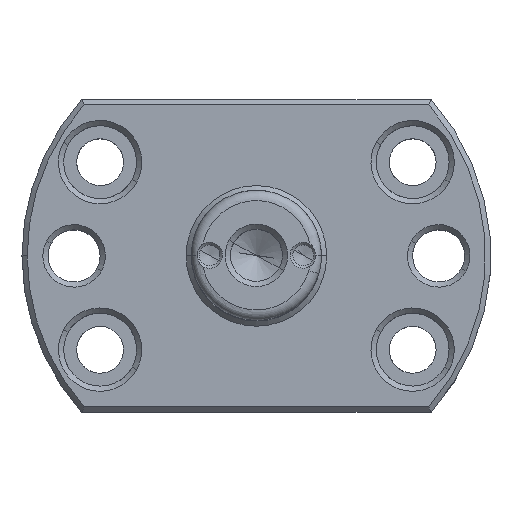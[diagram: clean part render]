
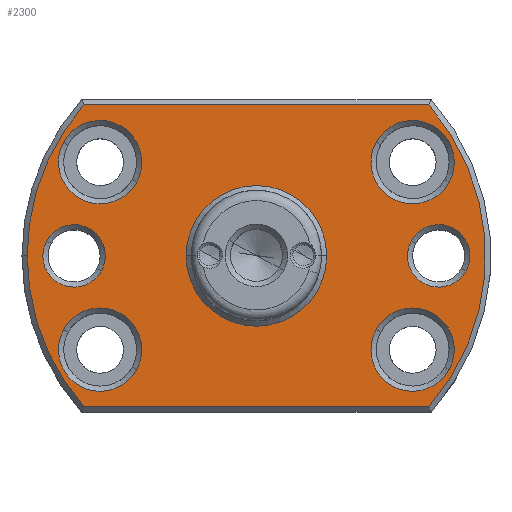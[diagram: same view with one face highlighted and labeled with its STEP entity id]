
A CAD part, top view. The second image highlights one B-rep face of the part: STEP entity #2300.
In plain terms, the highlighted planar face has unit normal (0, 0, 1).
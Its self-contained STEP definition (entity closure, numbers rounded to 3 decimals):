
#1546=CARTESIAN_POINT('Line Origine',(-0.528,29.,105.)) ;
#1550=CARTESIAN_POINT('Vertex',(33.091,29.,105.)) ;
#1552=CARTESIAN_POINT('Vertex',(-33.091,29.,105.)) ;
#1595=CARTESIAN_POINT('Vertex',(-33.091,-29.,105.)) ;
#1598=CARTESIAN_POINT('Axis2P3D Location',(0.,0.,105.)) ;
#1602=CARTESIAN_POINT('Vertex',(-44.,0.,105.)) ;
#1634=CARTESIAN_POINT('Axis2P3D Location',(0.,0.,105.)) ;
#1651=CARTESIAN_POINT('Line Origine',(-0.528,-29.,105.)) ;
#1655=CARTESIAN_POINT('Vertex',(33.091,-29.,105.)) ;
#1683=CARTESIAN_POINT('Axis2P3D Location',(0.,0.,105.)) ;
#1747=CARTESIAN_POINT('Vertex',(13.5,0.,105.)) ;
#1750=CARTESIAN_POINT('Axis2P3D Location',(0.,0.,105.)) ;
#1754=CARTESIAN_POINT('Vertex',(-13.5,0.,105.)) ;
#1774=CARTESIAN_POINT('Axis2P3D Location',(0.,0.,105.)) ;
#1843=CARTESIAN_POINT('Vertex',(-37.021,21.835,105.)) ;
#1846=CARTESIAN_POINT('Axis2P3D Location',(-30.,18.,105.)) ;
#1850=CARTESIAN_POINT('Vertex',(-22.979,14.165,105.)) ;
#1870=CARTESIAN_POINT('Axis2P3D Location',(-30.,18.,105.)) ;
#1939=CARTESIAN_POINT('Vertex',(37.021,14.165,105.)) ;
#1942=CARTESIAN_POINT('Axis2P3D Location',(30.,18.,105.)) ;
#1946=CARTESIAN_POINT('Vertex',(22.979,21.835,105.)) ;
#1966=CARTESIAN_POINT('Axis2P3D Location',(30.,18.,105.)) ;
#2035=CARTESIAN_POINT('Vertex',(37.021,-21.835,105.)) ;
#2038=CARTESIAN_POINT('Axis2P3D Location',(30.,-18.,105.)) ;
#2042=CARTESIAN_POINT('Vertex',(22.979,-14.165,105.)) ;
#2062=CARTESIAN_POINT('Axis2P3D Location',(30.,-18.,105.)) ;
#2085=CARTESIAN_POINT('Vertex',(-29.735,-2.877,105.)) ;
#2088=CARTESIAN_POINT('Axis2P3D Location',(-35.,0.,105.)) ;
#2092=CARTESIAN_POINT('Vertex',(-40.265,2.877,105.)) ;
#2119=CARTESIAN_POINT('Axis2P3D Location',(-35.,0.,105.)) ;
#2147=CARTESIAN_POINT('Vertex',(29.735,2.877,105.)) ;
#2150=CARTESIAN_POINT('Axis2P3D Location',(35.,0.,105.)) ;
#2154=CARTESIAN_POINT('Vertex',(40.265,-2.877,105.)) ;
#2181=CARTESIAN_POINT('Axis2P3D Location',(35.,0.,105.)) ;
#2246=CARTESIAN_POINT('Axis2P3D Location',(0.,0.,105.)) ;
#2258=CARTESIAN_POINT('Axis2P3D Location',(-30.,-18.,105.)) ;
#2262=CARTESIAN_POINT('Vertex',(-37.021,-14.165,105.)) ;
#2264=CARTESIAN_POINT('Vertex',(-22.979,-21.835,105.)) ;
#2267=CARTESIAN_POINT('Axis2P3D Location',(-30.,-18.,105.)) ;
#1547=DIRECTION('Vector Direction',(-1.,0.,0.)) ;
#1599=DIRECTION('Axis2P3D Direction',(0.,0.,1.)) ;
#1635=DIRECTION('Axis2P3D Direction',(0.,0.,1.)) ;
#1652=DIRECTION('Vector Direction',(1.,0.,0.)) ;
#1684=DIRECTION('Axis2P3D Direction',(0.,0.,1.)) ;
#1751=DIRECTION('Axis2P3D Direction',(0.,0.,1.)) ;
#1775=DIRECTION('Axis2P3D Direction',(0.,0.,1.)) ;
#1847=DIRECTION('Axis2P3D Direction',(0.,0.,1.)) ;
#1871=DIRECTION('Axis2P3D Direction',(0.,0.,1.)) ;
#1943=DIRECTION('Axis2P3D Direction',(0.,0.,1.)) ;
#1967=DIRECTION('Axis2P3D Direction',(0.,0.,1.)) ;
#2039=DIRECTION('Axis2P3D Direction',(0.,0.,1.)) ;
#2063=DIRECTION('Axis2P3D Direction',(0.,0.,1.)) ;
#2089=DIRECTION('Axis2P3D Direction',(0.,0.,1.)) ;
#2120=DIRECTION('Axis2P3D Direction',(0.,0.,1.)) ;
#2151=DIRECTION('Axis2P3D Direction',(0.,0.,1.)) ;
#2182=DIRECTION('Axis2P3D Direction',(0.,0.,1.)) ;
#2247=DIRECTION('Axis2P3D Direction',(0.,0.,1.)) ;
#2248=DIRECTION('Axis2P3D XDirection',(-1.,0.,0.)) ;
#2259=DIRECTION('Axis2P3D Direction',(0.,0.,1.)) ;
#2268=DIRECTION('Axis2P3D Direction',(0.,0.,1.)) ;
#1600=AXIS2_PLACEMENT_3D('Circle Axis2P3D',#1598,#1599,$) ;
#1636=AXIS2_PLACEMENT_3D('Circle Axis2P3D',#1634,#1635,$) ;
#1685=AXIS2_PLACEMENT_3D('Circle Axis2P3D',#1683,#1684,$) ;
#1752=AXIS2_PLACEMENT_3D('Circle Axis2P3D',#1750,#1751,$) ;
#1776=AXIS2_PLACEMENT_3D('Circle Axis2P3D',#1774,#1775,$) ;
#1848=AXIS2_PLACEMENT_3D('Circle Axis2P3D',#1846,#1847,$) ;
#1872=AXIS2_PLACEMENT_3D('Circle Axis2P3D',#1870,#1871,$) ;
#1944=AXIS2_PLACEMENT_3D('Circle Axis2P3D',#1942,#1943,$) ;
#1968=AXIS2_PLACEMENT_3D('Circle Axis2P3D',#1966,#1967,$) ;
#2040=AXIS2_PLACEMENT_3D('Circle Axis2P3D',#2038,#2039,$) ;
#2064=AXIS2_PLACEMENT_3D('Circle Axis2P3D',#2062,#2063,$) ;
#2090=AXIS2_PLACEMENT_3D('Circle Axis2P3D',#2088,#2089,$) ;
#2121=AXIS2_PLACEMENT_3D('Circle Axis2P3D',#2119,#2120,$) ;
#2152=AXIS2_PLACEMENT_3D('Circle Axis2P3D',#2150,#2151,$) ;
#2183=AXIS2_PLACEMENT_3D('Circle Axis2P3D',#2181,#2182,$) ;
#2249=AXIS2_PLACEMENT_3D('Plane Axis2P3D',#2246,#2247,#2248) ;
#2260=AXIS2_PLACEMENT_3D('Circle Axis2P3D',#2258,#2259,$) ;
#2269=AXIS2_PLACEMENT_3D('Circle Axis2P3D',#2267,#2268,$) ;
#2252=ORIENTED_EDGE('',*,*,#1604,.T.) ;
#2253=ORIENTED_EDGE('',*,*,#1657,.T.) ;
#2254=ORIENTED_EDGE('',*,*,#1687,.T.) ;
#2255=ORIENTED_EDGE('',*,*,#1554,.T.) ;
#2256=ORIENTED_EDGE('',*,*,#1638,.T.) ;
#2273=ORIENTED_EDGE('',*,*,#2266,.F.) ;
#2274=ORIENTED_EDGE('',*,*,#2271,.F.) ;
#2277=ORIENTED_EDGE('',*,*,#2185,.F.) ;
#2278=ORIENTED_EDGE('',*,*,#2156,.F.) ;
#2281=ORIENTED_EDGE('',*,*,#2123,.F.) ;
#2282=ORIENTED_EDGE('',*,*,#2094,.F.) ;
#2285=ORIENTED_EDGE('',*,*,#2066,.F.) ;
#2286=ORIENTED_EDGE('',*,*,#2044,.F.) ;
#2289=ORIENTED_EDGE('',*,*,#1970,.F.) ;
#2290=ORIENTED_EDGE('',*,*,#1948,.F.) ;
#2293=ORIENTED_EDGE('',*,*,#1874,.F.) ;
#2294=ORIENTED_EDGE('',*,*,#1852,.F.) ;
#2297=ORIENTED_EDGE('',*,*,#1778,.T.) ;
#2298=ORIENTED_EDGE('',*,*,#1756,.T.) ;
#2275=FACE_BOUND('',#2272,.T.) ;
#2279=FACE_BOUND('',#2276,.T.) ;
#2283=FACE_BOUND('',#2280,.T.) ;
#2287=FACE_BOUND('',#2284,.T.) ;
#2291=FACE_BOUND('',#2288,.T.) ;
#2295=FACE_BOUND('',#2292,.T.) ;
#2299=FACE_BOUND('',#2296,.T.) ;
#1548=VECTOR('Line Direction',#1547,1.) ;
#1653=VECTOR('Line Direction',#1652,1.) ;
#2300=ADVANCED_FACE('',(#2257,#2275,#2279,#2283,#2287,#2291,#2295,#2299),#2250,.T.) ;
#1601=CIRCLE('generated circle',#1600,44.) ;
#1637=CIRCLE('generated circle',#1636,44.) ;
#1686=CIRCLE('generated circle',#1685,44.) ;
#1753=CIRCLE('generated circle',#1752,13.5) ;
#1777=CIRCLE('generated circle',#1776,13.5) ;
#1849=CIRCLE('generated circle',#1848,8.) ;
#1873=CIRCLE('generated circle',#1872,8.) ;
#1945=CIRCLE('generated circle',#1944,8.) ;
#1969=CIRCLE('generated circle',#1968,8.) ;
#2041=CIRCLE('generated circle',#2040,8.) ;
#2065=CIRCLE('generated circle',#2064,8.) ;
#2091=CIRCLE('generated circle',#2090,6.) ;
#2122=CIRCLE('generated circle',#2121,6.) ;
#2153=CIRCLE('generated circle',#2152,6.) ;
#2184=CIRCLE('generated circle',#2183,6.) ;
#2261=CIRCLE('generated circle',#2260,8.) ;
#2270=CIRCLE('generated circle',#2269,8.) ;
#1554=EDGE_CURVE('',#1551,#1553,#1549,.T.) ;
#1604=EDGE_CURVE('',#1603,#1596,#1601,.T.) ;
#1638=EDGE_CURVE('',#1553,#1603,#1637,.T.) ;
#1657=EDGE_CURVE('',#1596,#1656,#1654,.T.) ;
#1687=EDGE_CURVE('',#1656,#1551,#1686,.T.) ;
#1756=EDGE_CURVE('',#1755,#1748,#1753,.F.) ;
#1778=EDGE_CURVE('',#1748,#1755,#1777,.F.) ;
#1852=EDGE_CURVE('',#1844,#1851,#1849,.T.) ;
#1874=EDGE_CURVE('',#1851,#1844,#1873,.T.) ;
#1948=EDGE_CURVE('',#1940,#1947,#1945,.T.) ;
#1970=EDGE_CURVE('',#1947,#1940,#1969,.T.) ;
#2044=EDGE_CURVE('',#2036,#2043,#2041,.T.) ;
#2066=EDGE_CURVE('',#2043,#2036,#2065,.T.) ;
#2094=EDGE_CURVE('',#2086,#2093,#2091,.T.) ;
#2123=EDGE_CURVE('',#2093,#2086,#2122,.T.) ;
#2156=EDGE_CURVE('',#2148,#2155,#2153,.T.) ;
#2185=EDGE_CURVE('',#2155,#2148,#2184,.T.) ;
#2266=EDGE_CURVE('',#2263,#2265,#2261,.T.) ;
#2271=EDGE_CURVE('',#2265,#2263,#2270,.T.) ;
#2251=EDGE_LOOP('',(#2252,#2253,#2254,#2255,#2256)) ;
#2272=EDGE_LOOP('',(#2273,#2274)) ;
#2276=EDGE_LOOP('',(#2277,#2278)) ;
#2280=EDGE_LOOP('',(#2281,#2282)) ;
#2284=EDGE_LOOP('',(#2285,#2286)) ;
#2288=EDGE_LOOP('',(#2289,#2290)) ;
#2292=EDGE_LOOP('',(#2293,#2294)) ;
#2296=EDGE_LOOP('',(#2297,#2298)) ;
#2257=FACE_OUTER_BOUND('',#2251,.T.) ;
#1549=LINE('Line',#1546,#1548) ;
#1654=LINE('Line',#1651,#1653) ;
#2250=PLANE('Plane',#2249) ;
#1551=VERTEX_POINT('',#1550) ;
#1553=VERTEX_POINT('',#1552) ;
#1596=VERTEX_POINT('',#1595) ;
#1603=VERTEX_POINT('',#1602) ;
#1656=VERTEX_POINT('',#1655) ;
#1748=VERTEX_POINT('',#1747) ;
#1755=VERTEX_POINT('',#1754) ;
#1844=VERTEX_POINT('',#1843) ;
#1851=VERTEX_POINT('',#1850) ;
#1940=VERTEX_POINT('',#1939) ;
#1947=VERTEX_POINT('',#1946) ;
#2036=VERTEX_POINT('',#2035) ;
#2043=VERTEX_POINT('',#2042) ;
#2086=VERTEX_POINT('',#2085) ;
#2093=VERTEX_POINT('',#2092) ;
#2148=VERTEX_POINT('',#2147) ;
#2155=VERTEX_POINT('',#2154) ;
#2263=VERTEX_POINT('',#2262) ;
#2265=VERTEX_POINT('',#2264) ;
